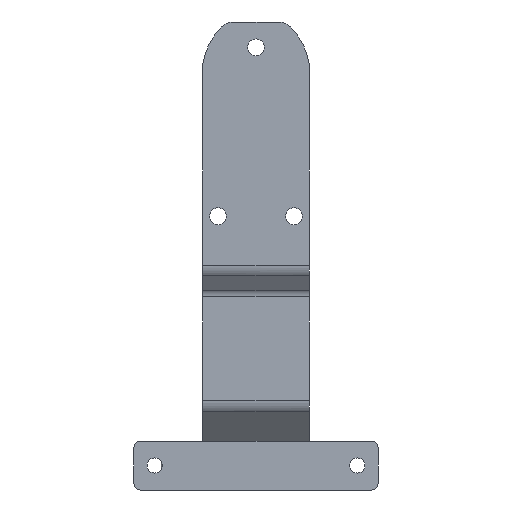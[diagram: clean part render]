
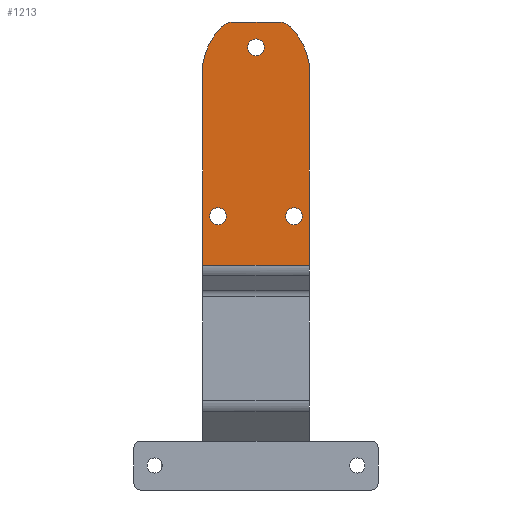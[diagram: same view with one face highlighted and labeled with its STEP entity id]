
A CAD part, front view. The second image highlights one B-rep face of the part: STEP entity #1213.
In plain terms, the highlighted planar face has unit normal (0, -1, 0).
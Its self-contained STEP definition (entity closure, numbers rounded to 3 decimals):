
#714 = VERTEX_POINT ( 'NONE', #2875 ) ;
#715 = VERTEX_POINT ( 'NONE', #2874 ) ;
#735 = EDGE_CURVE ( 'NONE', #754, #715, #2871, .T. ) ;
#742 = EDGE_CURVE ( 'NONE', #714, #744, #2819, .T. ) ;
#744 = VERTEX_POINT ( 'NONE', #2761 ) ;
#754 = VERTEX_POINT ( 'NONE', #2807 ) ;
#766 = EDGE_CURVE ( 'NONE', #820, #803, #2694, .T. ) ;
#803 = VERTEX_POINT ( 'NONE', #3104 ) ;
#820 = VERTEX_POINT ( 'NONE', #3167 ) ;
#1122 = VERTEX_POINT ( 'NONE', #4346 ) ;
#1172 = VERTEX_POINT ( 'NONE', #5346 ) ;
#1180 = EDGE_CURVE ( 'NONE', #1200, #1211, #5548, .T. ) ;
#1200 = VERTEX_POINT ( 'NONE', #5515 ) ;
#1206 = EDGE_CURVE ( 'NONE', #1211, #1209, #5389, .T. ) ;
#1209 = VERTEX_POINT ( 'NONE', #5433 ) ;
#1211 = VERTEX_POINT ( 'NONE', #5429 ) ;
#1213 = ADVANCED_FACE ( 'NONE', ( #5436, #5424, #5422, #5425 ), #5423, .T. ) ;
#1245 = EDGE_CURVE ( 'NONE', #1278, #1172, #5337, .T. ) ;
#1249 = EDGE_CURVE ( 'NONE', #1172, #1200, #5469, .T. ) ;
#1278 = VERTEX_POINT ( 'NONE', #5497 ) ;
#1292 = EDGE_CURVE ( 'NONE', #1209, #1346, #5487, .T. ) ;
#1318 = EDGE_CURVE ( 'NONE', #1346, #1320, #5589, .T. ) ;
#1320 = VERTEX_POINT ( 'NONE', #5667 ) ;
#1346 = VERTEX_POINT ( 'NONE', #5588 ) ;
#1359 = ORIENTED_EDGE ( 'NONE', *, *, #1249, .T. ) ;
#1360 = ORIENTED_EDGE ( 'NONE', *, *, #1245, .T. ) ;
#1361 = EDGE_LOOP ( 'NONE', ( #1381, #1376, #1377, #1360, #1359, #1421, #1423, #1367 ) ) ;
#1362 = EDGE_LOOP ( 'NONE', ( #1363, #1366 ) ) ;
#1363 = ORIENTED_EDGE ( 'NONE', *, *, #735, .T. ) ;
#1365 = ORIENTED_EDGE ( 'NONE', *, *, #766, .T. ) ;
#1366 = ORIENTED_EDGE ( 'NONE', *, *, #1413, .T. ) ;
#1367 = ORIENTED_EDGE ( 'NONE', *, *, #1292, .T. ) ;
#1372 = ORIENTED_EDGE ( 'NONE', *, *, #742, .F. ) ;
#1373 = EDGE_LOOP ( 'NONE', ( #1365, #1426 ) ) ;
#1376 = ORIENTED_EDGE ( 'NONE', *, *, #1398, .T. ) ;
#1377 = ORIENTED_EDGE ( 'NONE', *, *, #1391, .T. ) ;
#1381 = ORIENTED_EDGE ( 'NONE', *, *, #1318, .T. ) ;
#1382 = ORIENTED_EDGE ( 'NONE', *, *, #1384, .F. ) ;
#1383 = EDGE_LOOP ( 'NONE', ( #1382, #1372 ) ) ;
#1384 = EDGE_CURVE ( 'NONE', #744, #714, #5732, .T. ) ;
#1391 = EDGE_CURVE ( 'NONE', #1122, #1278, #5735, .T. ) ;
#1398 = EDGE_CURVE ( 'NONE', #1320, #1122, #5677, .T. ) ;
#1402 = EDGE_CURVE ( 'NONE', #803, #820, #5628, .T. ) ;
#1413 = EDGE_CURVE ( 'NONE', #715, #754, #5607, .T. ) ;
#1421 = ORIENTED_EDGE ( 'NONE', *, *, #1180, .T. ) ;
#1423 = ORIENTED_EDGE ( 'NONE', *, *, #1206, .T. ) ;
#1426 = ORIENTED_EDGE ( 'NONE', *, *, #1402, .T. ) ;
#2690 = DIRECTION ( 'NONE',  ( 0., 0., -1. ) ) ;
#2691 = DIRECTION ( 'NONE',  ( 0., 1., 0. ) ) ;
#2692 = CARTESIAN_POINT ( 'NONE',  ( 0., -47., 249. ) ) ;
#2693 = AXIS2_PLACEMENT_3D ( 'NONE', #2692, #2691, #2690 ) ;
#2694 = CIRCLE ( 'NONE', #2693, 5. ) ;
#2747 = AXIS2_PLACEMENT_3D ( 'NONE', #2754, #2760, #2759 ) ;
#2754 = CARTESIAN_POINT ( 'NONE',  ( 22.5, -47., 149. ) ) ;
#2759 = DIRECTION ( 'NONE',  ( 0., 0., -1. ) ) ;
#2760 = DIRECTION ( 'NONE',  ( 0., -1., 0. ) ) ;
#2761 = CARTESIAN_POINT ( 'NONE',  ( 22.5, -47., 144. ) ) ;
#2807 = CARTESIAN_POINT ( 'NONE',  ( -22.5, -47., 144. ) ) ;
#2816 = DIRECTION ( 'NONE',  ( 0., 0., -1. ) ) ;
#2817 = DIRECTION ( 'NONE',  ( 0., 1., 0. ) ) ;
#2819 = CIRCLE ( 'NONE', #2747, 5. ) ;
#2823 = CARTESIAN_POINT ( 'NONE',  ( -22.5, -47., 149. ) ) ;
#2837 = AXIS2_PLACEMENT_3D ( 'NONE', #2823, #2817, #2816 ) ;
#2871 = CIRCLE ( 'NONE', #2837, 5. ) ;
#2874 = CARTESIAN_POINT ( 'NONE',  ( -22.5, -47., 154. ) ) ;
#2875 = CARTESIAN_POINT ( 'NONE',  ( 22.5, -47., 154. ) ) ;
#3104 = CARTESIAN_POINT ( 'NONE',  ( 0., -47., 254. ) ) ;
#3167 = CARTESIAN_POINT ( 'NONE',  ( 0., -47., 244. ) ) ;
#4346 = CARTESIAN_POINT ( 'NONE',  ( -13.235, -47., 264. ) ) ;
#5337 = CIRCLE ( 'NONE', #5473, 39.536 ) ;
#5344 = DIRECTION ( 'NONE',  ( 1., 0., 0. ) ) ;
#5345 = VECTOR ( 'NONE', #5344, 1000. ) ;
#5346 = CARTESIAN_POINT ( 'NONE',  ( -31.5, -47., 239.336 ) ) ;
#5388 = CARTESIAN_POINT ( 'NONE',  ( 31.5, -47., 192. ) ) ;
#5389 = LINE ( 'NONE', #5388, #5432 ) ;
#5412 = DIRECTION ( 'NONE',  ( 0., 0., -1. ) ) ;
#5422 = FACE_BOUND ( 'NONE', #1373, .T. ) ;
#5423 = PLANE ( 'NONE',  #5440 ) ;
#5424 = FACE_BOUND ( 'NONE', #1362, .T. ) ;
#5425 = FACE_OUTER_BOUND ( 'NONE', #1361, .T. ) ;
#5426 = CARTESIAN_POINT ( 'NONE',  ( -31.5, -47., 264. ) ) ;
#5429 = CARTESIAN_POINT ( 'NONE',  ( 31.5, -47., 120. ) ) ;
#5431 = DIRECTION ( 'NONE',  ( 0., 0., 1. ) ) ;
#5432 = VECTOR ( 'NONE', #5431, 1000. ) ;
#5433 = CARTESIAN_POINT ( 'NONE',  ( 31.5, -47., 239.336 ) ) ;
#5436 = FACE_BOUND ( 'NONE', #1383, .T. ) ;
#5437 = DIRECTION ( 'NONE',  ( 0., -1., 0. ) ) ;
#5440 = AXIS2_PLACEMENT_3D ( 'NONE', #5426, #5437, #5412 ) ;
#5457 = DIRECTION ( 'NONE',  ( 0., 0., -1. ) ) ;
#5458 = VECTOR ( 'NONE', #5457, 1000. ) ;
#5459 = CARTESIAN_POINT ( 'NONE',  ( -31.5, -47., 192. ) ) ;
#5460 = DIRECTION ( 'NONE',  ( 0., 0., -1. ) ) ;
#5461 = DIRECTION ( 'NONE',  ( 0., -1., 0. ) ) ;
#5462 = CARTESIAN_POINT ( 'NONE',  ( 7.523, -47., 232.989 ) ) ;
#5469 = LINE ( 'NONE', #5459, #5458 ) ;
#5473 = AXIS2_PLACEMENT_3D ( 'NONE', #5462, #5461, #5460 ) ;
#5479 = DIRECTION ( 'NONE',  ( 0., 0., -1. ) ) ;
#5480 = DIRECTION ( 'NONE',  ( 0., -1., 0. ) ) ;
#5481 = CARTESIAN_POINT ( 'NONE',  ( -7.523, -47., 232.989 ) ) ;
#5482 = AXIS2_PLACEMENT_3D ( 'NONE', #5481, #5480, #5479 ) ;
#5487 = CIRCLE ( 'NONE', #5482, 39.536 ) ;
#5497 = CARTESIAN_POINT ( 'NONE',  ( -20.263, -47., 261.114 ) ) ;
#5515 = CARTESIAN_POINT ( 'NONE',  ( -31.5, -47., 120. ) ) ;
#5547 = CARTESIAN_POINT ( 'NONE',  ( 0., -47., 120. ) ) ;
#5548 = LINE ( 'NONE', #5547, #5345 ) ;
#5573 = DIRECTION ( 'NONE',  ( 0., -1., 0. ) ) ;
#5588 = CARTESIAN_POINT ( 'NONE',  ( 20.263, -47., 261.114 ) ) ;
#5589 = CIRCLE ( 'NONE', #5666, 10. ) ;
#5601 = DIRECTION ( 'NONE',  ( 0., 0., -1. ) ) ;
#5602 = DIRECTION ( 'NONE',  ( 0., 1., 0. ) ) ;
#5603 = CARTESIAN_POINT ( 'NONE',  ( -22.5, -47., 149. ) ) ;
#5604 = AXIS2_PLACEMENT_3D ( 'NONE', #5603, #5602, #5601 ) ;
#5607 = CIRCLE ( 'NONE', #5604, 5. ) ;
#5619 = DIRECTION ( 'NONE',  ( 0., 0., -1. ) ) ;
#5620 = DIRECTION ( 'NONE',  ( 0., 1., 0. ) ) ;
#5621 = CARTESIAN_POINT ( 'NONE',  ( 0., -47., 249. ) ) ;
#5622 = AXIS2_PLACEMENT_3D ( 'NONE', #5621, #5620, #5619 ) ;
#5626 = DIRECTION ( 'NONE',  ( -1., 0., 0. ) ) ;
#5628 = CIRCLE ( 'NONE', #5622, 5. ) ;
#5658 = DIRECTION ( 'NONE',  ( 0., 0., -1. ) ) ;
#5659 = DIRECTION ( 'NONE',  ( 0., -1., 0. ) ) ;
#5660 = CARTESIAN_POINT ( 'NONE',  ( 13.235, -47., 254. ) ) ;
#5666 = AXIS2_PLACEMENT_3D ( 'NONE', #5660, #5659, #5658 ) ;
#5667 = CARTESIAN_POINT ( 'NONE',  ( 13.235, -47., 264. ) ) ;
#5671 = CARTESIAN_POINT ( 'NONE',  ( 0., -47., 264. ) ) ;
#5677 = LINE ( 'NONE', #5671, #5679 ) ;
#5679 = VECTOR ( 'NONE', #5626, 1000. ) ;
#5680 = DIRECTION ( 'NONE',  ( 0., 0., -1. ) ) ;
#5681 = DIRECTION ( 'NONE',  ( 0., -1., 0. ) ) ;
#5682 = CARTESIAN_POINT ( 'NONE',  ( -13.235, -47., 254. ) ) ;
#5723 = DIRECTION ( 'NONE',  ( 0., 0., -1. ) ) ;
#5724 = AXIS2_PLACEMENT_3D ( 'NONE', #5738, #5573, #5723 ) ;
#5725 = AXIS2_PLACEMENT_3D ( 'NONE', #5682, #5681, #5680 ) ;
#5732 = CIRCLE ( 'NONE', #5724, 5. ) ;
#5735 = CIRCLE ( 'NONE', #5725, 10. ) ;
#5738 = CARTESIAN_POINT ( 'NONE',  ( 22.5, -47., 149. ) ) ;
